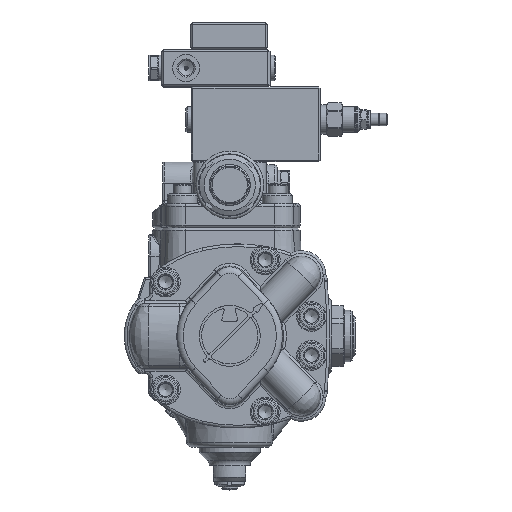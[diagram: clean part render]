
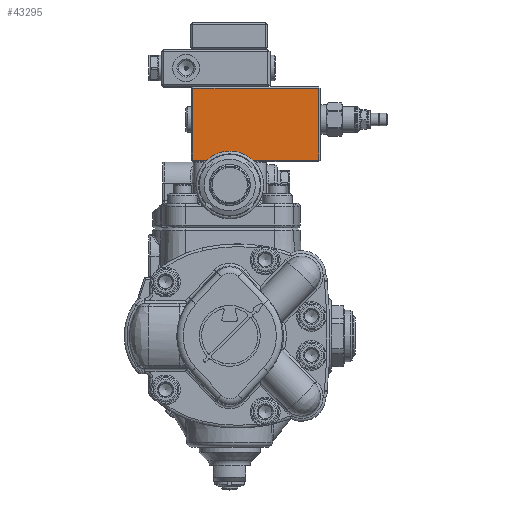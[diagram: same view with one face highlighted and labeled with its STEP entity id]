
A CAD part, top view. The second image highlights one B-rep face of the part: STEP entity #43295.
In plain terms, the highlighted planar face has unit normal (0, 0, 1).
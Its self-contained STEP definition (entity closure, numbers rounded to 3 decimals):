
#1979=PLANE('',#47226);
#4454=FACE_OUTER_BOUND('',#6966,.T.);
#6966=EDGE_LOOP('',(#36083,#36084,#36085,#36086));
#12726=LINE('',#86912,#15225);
#12727=LINE('',#86914,#15226);
#12728=LINE('',#86916,#15227);
#12729=LINE('',#86917,#15228);
#15225=VECTOR('',#57079,10.);
#15226=VECTOR('',#57080,10.);
#15227=VECTOR('',#57081,10.);
#15228=VECTOR('',#57082,10.);
#18946=VERTEX_POINT('',#86910);
#18947=VERTEX_POINT('',#86911);
#18948=VERTEX_POINT('',#86913);
#18949=VERTEX_POINT('',#86915);
#24788=EDGE_CURVE('',#18946,#18947,#12726,.T.);
#24789=EDGE_CURVE('',#18948,#18946,#12727,.T.);
#24790=EDGE_CURVE('',#18949,#18948,#12728,.T.);
#24791=EDGE_CURVE('',#18947,#18949,#12729,.T.);
#36083=ORIENTED_EDGE('',*,*,#24788,.F.);
#36084=ORIENTED_EDGE('',*,*,#24789,.F.);
#36085=ORIENTED_EDGE('',*,*,#24790,.F.);
#36086=ORIENTED_EDGE('',*,*,#24791,.F.);
#43295=ADVANCED_FACE('',(#4454),#1979,.T.);
#47226=AXIS2_PLACEMENT_3D('',#86909,#57077,#57078);
#57077=DIRECTION('center_axis',(0.,0.,
1.));
#57078=DIRECTION('ref_axis',(0.,1.,0.));
#57079=DIRECTION('',(1.,0.,0.));
#57080=DIRECTION('',(0.,1.,0.));
#57081=DIRECTION('',(-1.,0.,0.));
#57082=DIRECTION('',(0.,-1.,0.));
#86909=CARTESIAN_POINT('Origin',(100.297,174.193,74.283));
#86910=CARTESIAN_POINT('',(101.297,173.193,74.283));
#86911=CARTESIAN_POINT('',(194.297,173.193,74.283));
#86912=CARTESIAN_POINT('',(124.047,173.193,74.283));
#86913=CARTESIAN_POINT('',(101.297,120.193,74.283));
#86914=CARTESIAN_POINT('',(101.297,174.193,74.283));
#86915=CARTESIAN_POINT('',(194.297,120.193,74.283));
#86916=CARTESIAN_POINT('',(124.047,120.193,74.283));
#86917=CARTESIAN_POINT('',(194.297,174.193,74.283));
